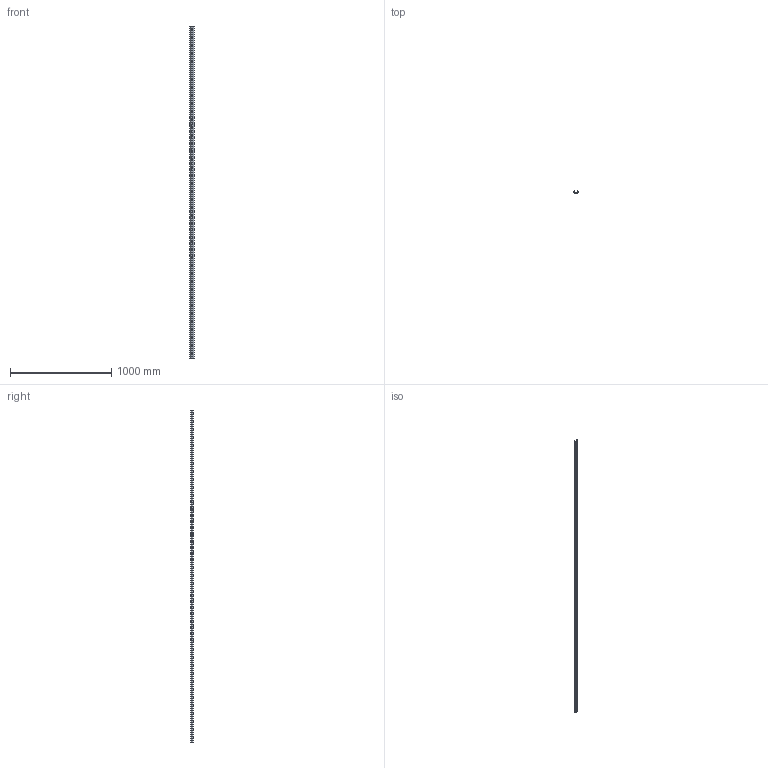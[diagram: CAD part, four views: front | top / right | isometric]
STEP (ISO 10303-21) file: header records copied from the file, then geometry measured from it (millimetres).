
FILE_DESCRIPTION(('STEP AP214'),'1');
FILE_NAME('rail_tex40-3280.stp','2019-03-08T08:33:53',('TraceParts'),('TraceParts S.A.'),'Spatial InterOp 3D',' ',' ');
FILE_SCHEMA(('automotive_design'));
Length unit declared in the file: millimetre
Products named in the file (1): rail_tex40-3280
Bounding box: 39.53 x 21 x 3280 mm (x, y, z)
Volume: 641294.4 mm3; surface area: 451631.7 mm2
Topology: 1 solids, 1 shells, 712 faces, 1845 edges, 1230 vertices
Faces by surface type: plane 501, bspline 117, cylinder 94
Entity records: 45340 total; most frequent: CARTESIAN_POINT 22605, ORIENTED_EDGE 3690, DIRECTION 2991, EDGE_CURVE 1845, LINE 1423, VECTOR 1423, VERTEX_POINT 1230, EDGE_LOOP 889
